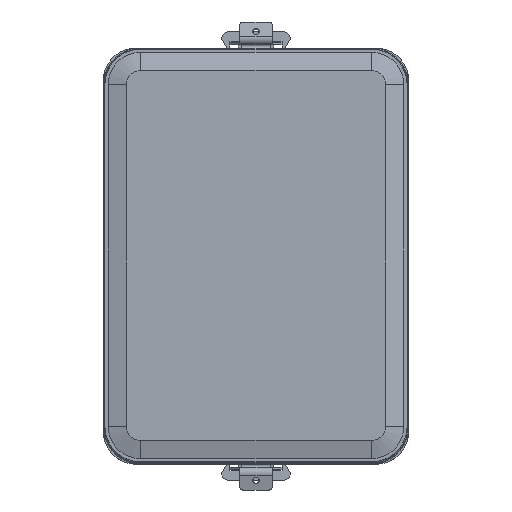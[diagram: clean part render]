
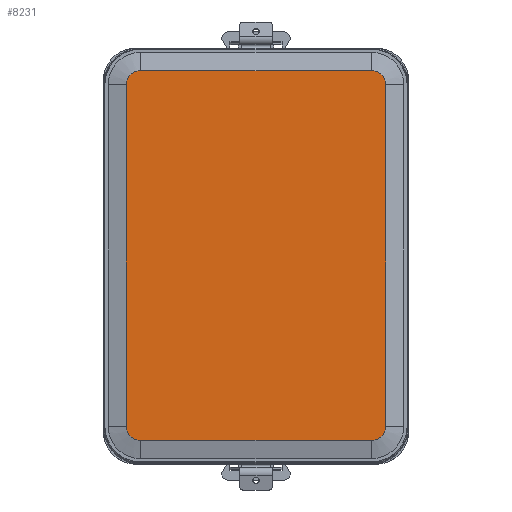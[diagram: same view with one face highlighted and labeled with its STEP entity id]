
A CAD part, top view. The second image highlights one B-rep face of the part: STEP entity #8231.
In plain terms, the highlighted planar face has unit normal (0, 0, 1).
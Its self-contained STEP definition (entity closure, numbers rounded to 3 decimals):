
#8231=ADVANCED_FACE('',(#15405),#15407,.T.);
#15405=FACE_BOUND('',#15406,.T.);
#15406=EDGE_LOOP('',(#27904,#27905,#27906,#27907,#27908,#27909,#27910,#27911));
#15407=PLANE('',#15408);
#15408=AXIS2_PLACEMENT_3D('',#15409,#15410,#15411);
#15409=CARTESIAN_POINT('',(0.,0.,127.5));
#15410=DIRECTION('',(0.,0.,1.));
#15411=DIRECTION('',(1.,0.,0.));
#27904=ORIENTED_EDGE('',*,*,#30276,.T.);
#27905=ORIENTED_EDGE('',*,*,#30274,.T.);
#27906=ORIENTED_EDGE('',*,*,#30272,.T.);
#27907=ORIENTED_EDGE('',*,*,#30270,.T.);
#27908=ORIENTED_EDGE('',*,*,#30268,.T.);
#27909=ORIENTED_EDGE('',*,*,#30266,.T.);
#27910=ORIENTED_EDGE('',*,*,#30264,.T.);
#27911=ORIENTED_EDGE('',*,*,#30261,.T.);
#30261=EDGE_CURVE('',#34010,#34011,#34012,.F.);
#30264=EDGE_CURVE('',#34015,#34010,#34016,.T.);
#30266=EDGE_CURVE('',#34018,#34015,#34019,.F.);
#30268=EDGE_CURVE('',#34021,#34018,#34022,.T.);
#30270=EDGE_CURVE('',#34024,#34021,#34025,.F.);
#30272=EDGE_CURVE('',#34027,#34024,#34028,.T.);
#30274=EDGE_CURVE('',#34030,#34027,#34031,.F.);
#30276=EDGE_CURVE('',#34011,#34030,#34033,.T.);
#34010=VERTEX_POINT('',#43566);
#34011=VERTEX_POINT('',#43567);
#34012=LINE('',#43568,#43569);
#34015=VERTEX_POINT('',#43577);
#34016=CIRCLE('',#43578,4.402);
#34018=VERTEX_POINT('',#43585);
#34019=LINE('',#43586,#43587);
#34021=VERTEX_POINT('',#43592);
#34022=CIRCLE('',#43593,4.402);
#34024=VERTEX_POINT('',#43600);
#34025=LINE('',#43601,#43602);
#34027=VERTEX_POINT('',#43607);
#34028=CIRCLE('',#43608,4.402);
#34030=VERTEX_POINT('',#43615);
#34031=LINE('',#43616,#43617);
#34033=CIRCLE('',#43622,4.402);
#43566=CARTESIAN_POINT('',(-35.5,-56.902,127.5));
#43567=CARTESIAN_POINT('',(35.5,-56.902,127.5));
#43568=CARTESIAN_POINT('',(35.5,-56.902,127.5));
#43569=VECTOR('',#43570,1.);
#43570=DIRECTION('',(-1.,0.,0.));
#43577=CARTESIAN_POINT('',(-39.902,-52.5,127.5));
#43578=AXIS2_PLACEMENT_3D('',#43579,#43580,#43581);
#43579=CARTESIAN_POINT('',(-35.5,-52.5,127.5));
#43580=DIRECTION('',(0.,-0.,1.));
#43581=DIRECTION('',(-1.,0.,0.));
#43585=CARTESIAN_POINT('',(-39.902,52.5,127.5));
#43586=CARTESIAN_POINT('',(-39.902,-52.5,127.5));
#43587=VECTOR('',#43588,1.);
#43588=DIRECTION('',(0.,1.,0.));
#43592=CARTESIAN_POINT('',(-35.5,56.902,127.5));
#43593=AXIS2_PLACEMENT_3D('',#43594,#43595,#43596);
#43594=CARTESIAN_POINT('',(-35.5,52.5,127.5));
#43595=DIRECTION('',(0.,-0.,1.));
#43596=DIRECTION('',(0.,1.,0.));
#43600=CARTESIAN_POINT('',(35.5,56.902,127.5));
#43601=CARTESIAN_POINT('',(-35.5,56.902,127.5));
#43602=VECTOR('',#43603,1.);
#43603=DIRECTION('',(1.,0.,0.));
#43607=CARTESIAN_POINT('',(39.902,52.5,127.5));
#43608=AXIS2_PLACEMENT_3D('',#43609,#43610,#43611);
#43609=CARTESIAN_POINT('',(35.5,52.5,127.5));
#43610=DIRECTION('',(-0.,0.,1.));
#43611=DIRECTION('',(1.,0.,0.));
#43615=CARTESIAN_POINT('',(39.902,-52.5,127.5));
#43616=CARTESIAN_POINT('',(39.902,52.5,127.5));
#43617=VECTOR('',#43618,1.);
#43618=DIRECTION('',(0.,-1.,0.));
#43622=AXIS2_PLACEMENT_3D('',#43623,#43624,#43625);
#43623=CARTESIAN_POINT('',(35.5,-52.5,127.5));
#43624=DIRECTION('',(-0.,0.,1.));
#43625=DIRECTION('',(0.,-1.,0.));
